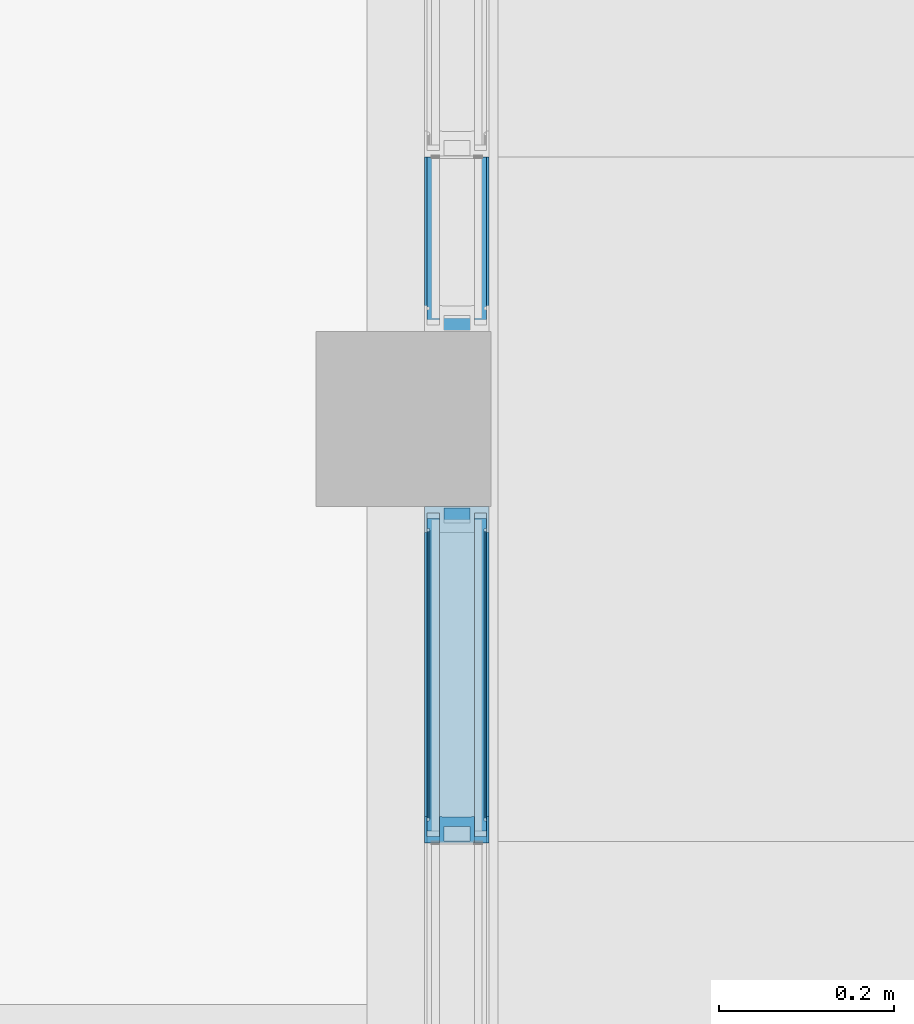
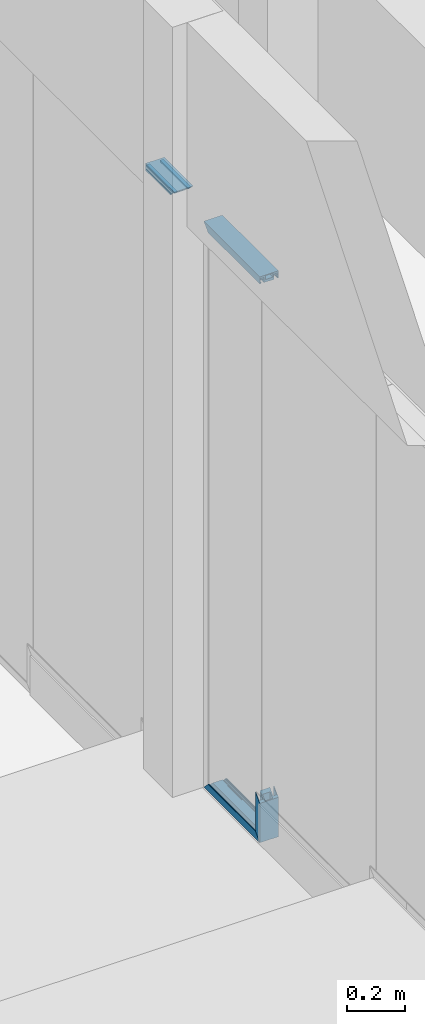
# One storey, part 43 of 65: 7 building element parts, 6 elements without a shape of their own.
"""IFC2X3 building model written with IfcOpenShell, lengths in millimetres."""

from ifc_helpers import new_model, entity, si_unit, converted_unit, derived_unit, money_unit, direction, frame, origin_with_axes, place, context, subcontext, project, spatial, faceted_brep, material, type_object, element, aggregate, save


model = new_model("IFC2X3")

# Units and contexts
model_context = context("Model", 3, precision=0.01, world=origin_with_axes(), true_north=direction((0.0, 1.0)))
body_context = subcontext(model_context, "Body", "Model", "MODEL_VIEW")
ifc_project = project(units=[si_unit("LENGTHUNIT", "METRE", prefix="MILLI"), si_unit("AREAUNIT", "SQUARE_METRE"), si_unit("VOLUMEUNIT", "CUBIC_METRE"), converted_unit("PLANEANGLEUNIT", "DEGREE", entity("IfcPlaneAngleMeasure", 0.0174532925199), si_unit("PLANEANGLEUNIT", "RADIAN"), dimensions=[0, 0, 0, 0, 0, 0, 0]), si_unit("SOLIDANGLEUNIT", "STERADIAN"), money_unit("EUR"), converted_unit("TIMEUNIT", "Year", entity("IfcTimeMeasure", 31556926.0), si_unit("TIMEUNIT", "SECOND"), dimensions=[0, 0, 1, 0, 0, 0, 0]), si_unit("MASSUNIT", "GRAM", prefix="KILO"), si_unit("THERMODYNAMICTEMPERATUREUNIT", "DEGREE_CELSIUS"), si_unit("LUMINOUSINTENSITYUNIT", "LUMEN"), si_unit("ENERGYUNIT", "JOULE", prefix="MEGA"), derived_unit("THERMALCONDUCTANCEUNIT", [(si_unit("POWERUNIT", "WATT"), 1), (si_unit("LENGTHUNIT", "METRE"), -1), (si_unit("THERMODYNAMICTEMPERATUREUNIT", "KELVIN"), -1)]), derived_unit("SPECIFICHEATCAPACITYUNIT", [(si_unit("ENERGYUNIT", "JOULE"), 1), (si_unit("MASSUNIT", "GRAM", prefix="KILO"), -1), (si_unit("THERMODYNAMICTEMPERATUREUNIT", "KELVIN"), -1)]), derived_unit("MASSDENSITYUNIT", [(si_unit("MASSUNIT", "GRAM", prefix="KILO"), 1), (si_unit("VOLUMEUNIT", "CUBIC_METRE"), -1)])], contexts=[model_context])

# Site, building, storey
site_placement = place(None, origin_with_axes())
site = spatial("IfcSite", under=ifc_project, at=site_placement, Name="Puškini 31, Narva", CompositionType="ELEMENT")
building_placement = place(site_placement, origin_with_axes())
building = spatial("IfcBuilding", under=site, at=building_placement, Name="Narva Riigigümnaasium", CompositionType="ELEMENT")
storey_placement = place(building_placement, frame((0.0, 0.0, -1320.0), z_axis=(0.0, 0.0, 1.0), x_axis=(1.0, 0.0, 0.0)))
storey = spatial("IfcBuildingStorey", under=building, at=storey_placement, Name="1.korrus -1.32", CompositionType="ELEMENT", Elevation=-1320.0)

# Curtain wall, members, building element parts
curtain_wall_type = type_object("IfcCurtainWallType", Name="Curtain Wall Type", PredefinedType="NOTDEFINED")
curtain_wall_1_placement = place(storey_placement, frame((30362.9999948, 159591.499992, 330.0), z_axis=(0.0, 0.0, 1.0), x_axis=(1.0, 0.0, 0.0)))
curtain_wall_1 = element("IfcCurtainWall", 1, at=curtain_wall_1_placement, inside=storey, type_object=curtain_wall_type, Name="G-SKLF-03")
member_type_1 = type_object("IfcMemberType", Name="30 x 37", PredefinedType="MULLION")
member_1_placement = place(curtain_wall_1_placement, frame((0.0, 3523.5, 0.0), z_axis=(0.0, 0.0, 1.0), x_axis=(0.0, -1.0, 0.0)))
member_1 = element("IfcMember", 2, at=member_1_placement, type_object=member_type_1, Name="G-SKLF-05-raam", ObjectType="MULLION")
ifc_material_1 = material(Name="Teras RAL7012")
building_element_part_1_placement = place(member_1_placement, origin_with_axes())
building_element_part_1 = element("IfcBuildingElementPart", 3, at=building_element_part_1_placement, material=ifc_material_1, Name="Teras RAL7012", context=body_context, shape_type="Brep", body=[
    faceted_brep([(-29.6000001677, -17.0000000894, 29.6000001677), (-29.6000001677, -17.0000000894, 194.600007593), (-29.6000001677, 17.0000000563, 194.600007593), (-29.6000001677, 17.0000000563, 29.6000001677), (3.28335792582e-07, -17.0000000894, -3.28335789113e-07), (3.28335792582e-07, -17.0000000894, 165.000007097), (3.28335792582e-07, 17.0000000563, 165.000007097), (-1.99999958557, -15.0000001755, 167.000007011), (-18.8000001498, -15.0000001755, 183.800007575), (-18.8000001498, 15.0000001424, 183.800007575), (-1.99999958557, 15.0000001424, 167.000007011), (3.28335792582e-07, 17.0000000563, -3.28335796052e-07), (-1.99999958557, -15.0000001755, 1.99999958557), (-1.99999958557, 15.0000001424, 1.99999958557), (-18.8000001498, 15.0000001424, 18.8000001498), (-18.8000001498, -15.0000001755, 18.8000001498)], [[[0, 1, 2, 3]], [[4, 5, 1, 0]], [[2, 1, 5, 6], [7, 8, 9, 10]], [[3, 2, 6, 11]], [[3, 11, 4, 0], [12, 13, 14, 15]], [[11, 6, 5, 4]], [[15, 8, 7, 12]], [[14, 9, 8, 15]], [[13, 10, 9, 14]], [[12, 7, 10, 13]]]),
    faceted_brep([(-29.6000001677, 17.0000000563, 29.6000001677), (-29.6000001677, 17.0000000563, 194.600007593), (-30.0000193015, 17.0, 195.000026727), (-30.0000193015, 17.0, 30.0000193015), (0.0, 17.0, 0.0), (0.0, 17.0, 165.000007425), (-30.0000193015, 20.0, 195.000026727), (0.0, 37.0, 165.000007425), (-30.0000193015, 37.0, 195.000026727), (-30.0000193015, 34.0161444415, 195.000026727), (-28.5126239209, 34.0161444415, 193.512631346), (-24.987414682, 34.0161444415, 189.987422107), (-13.8499999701, 34.0161444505, 178.850007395), (-7.49999999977, 34.0161444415, 172.500007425), (-7.49999999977, 20.0, 172.500007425), (-13.8499999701, 20.000000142, 178.850007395), (-30.0000193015, 20.0, 30.0000193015), (-13.8499999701, 20.000000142, 13.8499999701), (-7.49999999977, 20.0, 7.49999999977), (-7.49999999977, 34.0161444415, 7.49999999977), (-13.8499999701, 34.0161444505, 13.8499999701), (-24.987414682, 34.0161444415, 24.987414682), (-28.5126239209, 34.0161444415, 28.5126239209), (-30.0000193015, 34.0161444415, 30.0000193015), (-30.0000193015, 37.0, 30.0000193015), (0.0, 37.0, 0.0)], [[[0, 1, 2, 3]], [[1, 0, 4, 5]], [[6, 2, 1, 5, 7, 8, 9, 10, 11, 12, 13, 14, 15]], [[3, 2, 6, 16]], [[3, 16, 17, 18, 19, 20, 21, 22, 23, 24, 25, 4, 0]], [[5, 4, 25, 7]], [[24, 8, 7, 25]], [[23, 9, 8, 24]], [[9, 23, 22, 10]], [[21, 11, 10, 22]], [[20, 12, 11, 21]], [[12, 20, 19, 13]], [[18, 14, 13, 19]], [[14, 18, 17, 15]], [[16, 6, 15, 17]]]),
    faceted_brep([(-30.0000193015, -34.0161444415, 30.0000193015), (-30.0000193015, -34.0161444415, 195.000026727), (-28.5126239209, -34.0161444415, 193.512631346), (-28.5126239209, -34.0161444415, 28.5126239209), (-30.0000193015, -37.0, 30.0000193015), (-30.0000193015, -37.0, 195.000026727), (0.0, -37.0, 165.000007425), (0.0, -17.0, 165.000007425), (-29.6000001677, -17.0000000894, 194.600007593), (-30.0000193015, -17.0, 195.000026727), (-30.0000193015, -20.0, 195.000026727), (-13.8499999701, -19.9999997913, 178.850007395), (-7.49999999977, -20.0, 172.500007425), (-7.49999999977, -34.0161444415, 172.500007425), (-13.8499999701, -34.0161445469, 178.850007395), (-24.987414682, -34.0161444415, 189.987422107), (-24.987414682, -34.0161444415, 24.987414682), (-13.8499999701, -34.0161445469, 13.8499999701), (-7.49999999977, -34.0161444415, 7.49999999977), (-7.49999999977, -20.0, 7.49999999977), (-13.8499999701, -19.9999997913, 13.8499999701), (-30.0000193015, -20.0, 30.0000193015), (-30.0000193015, -17.0, 30.0000193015), (-29.6000001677, -17.0000000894, 29.6000001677), (0.0, -17.0, 0.0), (0.0, -37.0, 0.0)], [[[0, 1, 2, 3]], [[4, 5, 1, 0]], [[1, 5, 6, 7, 8, 9, 10, 11, 12, 13, 14, 15, 2]], [[15, 16, 3, 2]], [[4, 0, 3, 16, 17, 18, 19, 20, 21, 22, 23, 24, 25]], [[5, 4, 25, 6]], [[6, 25, 24, 7]], [[23, 8, 7, 24]], [[8, 23, 22, 9]], [[21, 10, 9, 22]], [[10, 21, 20, 11]], [[19, 12, 11, 20]], [[18, 13, 12, 19]], [[13, 18, 17, 14]], [[14, 17, 16, 15]]]),
])
aggregate(member_1, [building_element_part_1])
member_2_placement = place(curtain_wall_1_placement, frame((0.0, 3523.5, 0.0), z_axis=(0.0, 1.0, 0.0), x_axis=(0.0, 0.0, 1.0)))
member_2 = element("IfcMember", 4, at=member_2_placement, type_object=member_type_1, Name="G-SKLF-23-raam", ObjectType="MULLION")
ifc_material_2 = material(Name="Klaasvill")
building_element_part_2_placement = place(member_2_placement, origin_with_axes())
building_element_part_2 = element("IfcBuildingElementPart", 5, at=building_element_part_2_placement, material=ifc_material_2, Name="Klaasvill", context=body_context, shape_type="Brep", body=[
    faceted_brep([(13.8499999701, 20.000000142, 13.8499999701), (13.8499999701, 20.000000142, 371.149965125), (7.49999990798, 20.000000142, 377.499964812), (7.49999990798, 20.000000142, 7.49999990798), (13.8499999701, 34.0161444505, 13.8499999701), (13.8499999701, 34.0161444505, 371.149965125), (7.49999990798, 34.0161444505, 377.499964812), (7.49999990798, 34.0161444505, 7.49999990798)], [[[0, 1, 2, 3]], [[4, 5, 1, 0]], [[2, 1, 5, 6]], [[3, 2, 6, 7]], [[3, 7, 4, 0]], [[7, 6, 5, 4]]]),
    faceted_brep([(25.004489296, 32.0307503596, 25.004489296), (25.004489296, 32.0307503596, 359.995476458), (24.987414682, 34.0161444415, 360.012551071), (24.987414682, 34.0161444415, 24.987414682), (25.742237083, 31.2930025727, 25.742237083), (25.742237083, 31.2930025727, 359.257728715), (26.7500193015, 31.0229681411, 358.249946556), (27.75780152, 31.2930025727, 357.242164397), (28.4955493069, 32.0307503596, 356.504416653), (28.7655837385, 33.0385325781, 356.234382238), (28.5126239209, 34.0161444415, 356.48734204), (28.5126239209, 34.0161444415, 28.5126239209), (28.7655837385, 33.0385325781, 28.7655837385), (28.4955493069, 32.0307503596, 28.4955493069), (27.75780152, 31.2930025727, 27.75780152), (26.7500193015, 31.0229681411, 26.7500193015)], [[[0, 1, 2, 3]], [[4, 5, 1, 0]], [[2, 1, 5, 6, 7, 8, 9, 10]], [[3, 2, 10, 11]], [[3, 11, 12, 13, 14, 15, 4, 0]], [[15, 6, 5, 4]], [[14, 7, 6, 15]], [[13, 8, 7, 14]], [[12, 9, 8, 13]], [[11, 10, 9, 12]]]),
    faceted_brep([(7.49999990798, -34.0161445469, 7.49999990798), (7.49999990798, -34.0161445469, 377.499964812), (7.49999990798, -19.9999997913, 377.499964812), (7.49999990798, -19.9999997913, 7.49999990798), (13.8499999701, -34.0161445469, 13.8499999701), (13.8499999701, -34.0161445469, 371.149965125), (13.8499999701, -19.9999997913, 371.149965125), (13.8499999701, -19.9999997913, 13.8499999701)], [[[0, 1, 2, 3]], [[4, 5, 1, 0]], [[2, 1, 5, 6]], [[3, 2, 6, 7]], [[3, 7, 4, 0]], [[7, 6, 5, 4]]]),
    faceted_brep([(24.987414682, -34.0161444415, 24.987414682), (24.987414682, -34.0161444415, 360.012551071), (25.004489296, -32.0307503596, 359.995476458), (25.004489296, -32.0307503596, 25.004489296), (28.5126239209, -34.0161444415, 28.5126239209), (28.5126239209, -34.0161444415, 356.48734204), (28.7655837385, -33.0385325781, 356.234382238), (28.4955493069, -32.0307503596, 356.504416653), (27.75780152, -31.2930025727, 357.242164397), (26.7500193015, -31.0229681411, 358.249946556), (25.742237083, -31.2930025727, 359.257728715), (25.742237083, -31.2930025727, 25.742237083), (26.7500193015, -31.0229681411, 26.7500193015), (27.75780152, -31.2930025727, 27.75780152), (28.4955493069, -32.0307503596, 28.4955493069), (28.7655837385, -33.0385325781, 28.7655837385)], [[[0, 1, 2, 3]], [[4, 5, 1, 0]], [[2, 1, 5, 6, 7, 8, 9, 10]], [[3, 2, 10, 11]], [[3, 11, 12, 13, 14, 15, 4, 0]], [[15, 6, 5, 4]], [[14, 7, 6, 15]], [[13, 8, 7, 14]], [[12, 9, 8, 13]], [[11, 10, 9, 12]]]),
])
building_element_part_3_placement = place(member_2_placement, origin_with_axes())
building_element_part_3 = element("IfcBuildingElementPart", 6, at=building_element_part_3_placement, material=ifc_material_1, Name="Teras RAL7012", context=body_context, shape_type="Brep", body=[
    faceted_brep([(29.5999996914, -17.0000000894, 29.5999996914), (29.5999996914, -17.0000000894, 355.399966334), (0.0, -17.0000000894, 384.999964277), (0.0, -17.0000000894, 0.0), (29.5999996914, 17.0000000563, 29.5999996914), (29.5999996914, 17.0000000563, 355.399966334), (0.0, 17.0000000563, 384.999964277), (1.9999999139, 15.0000001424, 382.999964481), (18.7999996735, 15.0000001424, 366.199965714), (18.7999996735, -15.0000001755, 366.199965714), (1.9999999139, -15.0000001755, 382.999964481), (0.0, 17.0000000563, 0.0), (1.9999999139, 15.0000001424, 1.9999999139), (1.9999999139, -15.0000001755, 1.9999999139), (18.7999996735, -15.0000001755, 18.7999996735), (18.7999996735, 15.0000001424, 18.7999996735)], [[[0, 1, 2, 3]], [[4, 5, 1, 0]], [[2, 1, 5, 6], [7, 8, 9, 10]], [[3, 2, 6, 11]], [[3, 11, 4, 0], [12, 13, 14, 15]], [[11, 6, 5, 4]], [[15, 8, 7, 12]], [[14, 9, 8, 15]], [[13, 10, 9, 14]], [[12, 7, 10, 13]]]),
    faceted_brep([(29.5999996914, 17.0000000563, 29.5999996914), (29.5999996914, 17.0000000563, 355.399966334), (0.0, 17.0, 384.999964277), (0.0, 17.0, 0.0), (30.0000193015, 17.0, 30.0000193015), (30.0000193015, 17.0, 354.999946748), (30.0000193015, 20.0, 354.999946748), (13.8499999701, 20.000000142, 371.149965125), (7.49999999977, 20.0, 377.49996472), (7.49999999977, 34.0161444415, 377.49996472), (13.8499999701, 34.0161444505, 371.149965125), (24.987414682, 34.0161444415, 360.012551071), (28.5126239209, 34.0161444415, 356.48734204), (30.0000193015, 34.0161444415, 354.999946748), (30.0000193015, 37.0, 354.999946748), (0.0, 37.0, 384.999964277), (0.0, 37.0, 0.0), (30.0000193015, 37.0, 30.0000193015), (30.0000193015, 34.0161444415, 30.0000193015), (28.5126239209, 34.0161444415, 28.5126239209), (24.987414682, 34.0161444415, 24.987414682), (13.8499999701, 34.0161444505, 13.8499999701), (7.49999999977, 34.0161444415, 7.49999999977), (7.49999999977, 20.0, 7.49999999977), (13.8499999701, 20.000000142, 13.8499999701), (30.0000193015, 20.0, 30.0000193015)], [[[0, 1, 2, 3]], [[4, 5, 1, 0]], [[2, 1, 5, 6, 7, 8, 9, 10, 11, 12, 13, 14, 15]], [[3, 2, 15, 16]], [[3, 16, 17, 18, 19, 20, 21, 22, 23, 24, 25, 4, 0]], [[25, 6, 5, 4]], [[24, 7, 6, 25]], [[23, 8, 7, 24]], [[22, 9, 8, 23]], [[21, 10, 9, 22]], [[20, 11, 10, 21]], [[19, 12, 11, 20]], [[18, 13, 12, 19]], [[17, 14, 13, 18]], [[16, 15, 14, 17]]]),
    faceted_brep([(0.0, -37.0, 0.0), (0.0, -37.0, 384.999964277), (0.0, -17.0, 384.999964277), (0.0, -17.0, 0.0), (30.0000193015, -37.0, 30.0000193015), (30.0000193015, -37.0, 354.999946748), (30.0000193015, -34.0161444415, 354.999946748), (28.5126239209, -34.0161444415, 356.48734204), (24.987414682, -34.0161444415, 360.012551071), (13.8499999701, -34.0161445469, 371.149965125), (7.49999999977, -34.0161444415, 377.49996472), (7.49999999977, -20.0, 377.49996472), (13.8499999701, -19.9999997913, 371.149965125), (30.0000193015, -20.0, 354.999946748), (30.0000193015, -17.0, 354.999946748), (29.5999996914, -17.0000000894, 355.399966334), (29.5999996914, -17.0000000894, 29.5999996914), (30.0000193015, -17.0, 30.0000193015), (30.0000193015, -20.0, 30.0000193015), (13.8499999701, -19.9999997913, 13.8499999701), (7.49999999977, -20.0, 7.49999999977), (7.49999999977, -34.0161444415, 7.49999999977), (13.8499999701, -34.0161445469, 13.8499999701), (24.987414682, -34.0161444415, 24.987414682), (28.5126239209, -34.0161444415, 28.5126239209), (30.0000193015, -34.0161444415, 30.0000193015)], [[[0, 1, 2, 3]], [[4, 5, 1, 0]], [[2, 1, 5, 6, 7, 8, 9, 10, 11, 12, 13, 14, 15]], [[3, 2, 15, 16]], [[3, 16, 17, 18, 19, 20, 21, 22, 23, 24, 25, 4, 0]], [[25, 6, 5, 4]], [[24, 7, 6, 25]], [[23, 8, 7, 24]], [[22, 9, 8, 23]], [[21, 10, 9, 22]], [[20, 11, 10, 21]], [[19, 12, 11, 20]], [[18, 13, 12, 19]], [[17, 14, 13, 18]], [[16, 15, 14, 17]]]),
])
aggregate(member_2, [building_element_part_2, building_element_part_3])
member_3_placement = place(curtain_wall_1_placement, frame((0.0, 3908.50010429, 2369.99992285), z_axis=(0.0, -1.0, 1.04224375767e-08), x_axis=(0.0, -1.04224375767e-08, -1.0)))
member_3 = element("IfcMember", 7, at=member_3_placement, type_object=member_type_1, Name="G-SKLF-25-raam", ObjectType="MULLION")
aggregate(curtain_wall_1, [member_1, member_2, member_3])
building_element_part_4_placement = place(member_3_placement, origin_with_axes())
building_element_part_4 = element("IfcBuildingElementPart", 8, at=building_element_part_4_placement, material=ifc_material_2, Name="Klaasvill", context=body_context, shape_type="Brep", body=[
    faceted_brep([(13.8499999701, 20.000000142, 13.850000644), (13.8499999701, 20.000000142, 385.000104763), (7.49999990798, 20.000000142, 385.000104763), (7.49999990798, 20.000000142, 7.50000027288), (13.8499999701, 34.0161444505, 13.850000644), (13.8499999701, 34.0161444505, 385.000104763), (7.49999990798, 34.0161444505, 385.000104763), (7.49999990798, 34.0161444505, 7.50000027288)], [[[0, 1, 2, 3]], [[4, 5, 1, 0]], [[2, 1, 5, 6]], [[3, 2, 6, 7]], [[3, 7, 4, 0]], [[7, 6, 5, 4]]]),
    faceted_brep([(25.004489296, 32.0307503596, 25.0044905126), (25.004489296, 32.0307503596, 385.000104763), (24.987414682, 34.0161444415, 385.000104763), (24.987414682, 34.0161444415, 24.9874158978), (25.742237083, 31.2930025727, 25.7422383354), (25.742237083, 31.2930025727, 385.000104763), (26.7500193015, 31.0229681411, 385.000104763), (27.75780152, 31.2930025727, 385.000104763), (28.4955493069, 32.0307503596, 385.000104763), (28.7655837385, 33.0385325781, 385.000104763), (28.5126239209, 34.0161444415, 385.000104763), (28.5126239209, 34.0161444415, 28.5126253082), (28.7655837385, 33.0385325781, 28.7655851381), (28.4955493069, 32.0307503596, 28.4955506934), (27.75780152, 31.2930025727, 27.7578028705), (26.7500193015, 31.0229681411, 26.750020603)], [[[0, 1, 2, 3]], [[4, 5, 1, 0]], [[2, 1, 5, 6, 7, 8, 9, 10]], [[3, 2, 10, 11]], [[3, 11, 12, 13, 14, 15, 4, 0]], [[15, 6, 5, 4]], [[14, 7, 6, 15]], [[13, 8, 7, 14]], [[12, 9, 8, 13]], [[11, 10, 9, 12]]]),
    faceted_brep([(7.49999990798, -34.0161445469, 7.50000027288), (7.49999990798, -34.0161445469, 385.000104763), (7.49999990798, -19.9999997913, 385.000104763), (7.49999990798, -19.9999997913, 7.50000027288), (13.8499999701, -34.0161445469, 13.850000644), (13.8499999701, -34.0161445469, 385.000104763), (13.8499999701, -19.9999997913, 385.000104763), (13.8499999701, -19.9999997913, 13.850000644)], [[[0, 1, 2, 3]], [[4, 5, 1, 0]], [[2, 1, 5, 6]], [[3, 2, 6, 7]], [[3, 7, 4, 0]], [[7, 6, 5, 4]]]),
    faceted_brep([(24.987414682, -34.0161444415, 24.9874158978), (24.987414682, -34.0161444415, 385.000104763), (25.004489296, -32.0307503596, 385.000104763), (25.004489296, -32.0307503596, 25.0044905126), (28.5126239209, -34.0161444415, 28.5126253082), (28.5126239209, -34.0161444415, 385.000104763), (28.7655837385, -33.0385325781, 385.000104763), (28.4955493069, -32.0307503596, 385.000104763), (27.75780152, -31.2930025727, 385.000104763), (26.7500193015, -31.0229681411, 385.000104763), (25.742237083, -31.2930025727, 385.000104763), (25.742237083, -31.2930025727, 25.7422383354), (26.7500193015, -31.0229681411, 26.750020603), (27.75780152, -31.2930025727, 27.7578028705), (28.4955493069, -32.0307503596, 28.4955506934), (28.7655837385, -33.0385325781, 28.7655851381)], [[[0, 1, 2, 3]], [[4, 5, 1, 0]], [[2, 1, 5, 6, 7, 8, 9, 10]], [[3, 2, 10, 11]], [[3, 11, 12, 13, 14, 15, 4, 0]], [[15, 6, 5, 4]], [[14, 7, 6, 15]], [[13, 8, 7, 14]], [[12, 9, 8, 13]], [[11, 10, 9, 12]]]),
])
building_element_part_5_placement = place(member_3_placement, origin_with_axes())
building_element_part_5 = element("IfcBuildingElementPart", 9, at=building_element_part_5_placement, material=ifc_material_1, Name="Teras RAL7012", context=body_context, shape_type="Brep", body=[
    faceted_brep([(29.5999996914, -17.0000000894, 29.6000011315), (29.5999996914, -17.0000000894, 385.000104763), (0.0, -17.0000000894, 385.000104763), (0.0, -17.0000000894, 0.0), (29.5999996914, 17.0000000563, 29.6000011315), (29.5999996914, 17.0000000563, 385.000104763), (0.0, 17.0000000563, 385.000104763), (1.9999999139, 15.0000001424, 385.000104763), (18.7999996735, 15.0000001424, 385.000104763), (18.7999996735, -15.0000001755, 385.000104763), (1.9999999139, -15.0000001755, 385.000104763), (0.0, 17.0000000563, 0.0), (1.9999999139, 15.0000001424, 2.00000001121), (1.9999999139, -15.0000001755, 2.00000001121), (18.7999996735, -15.0000001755, 18.8000005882), (18.7999996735, 15.0000001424, 18.8000005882)], [[[0, 1, 2, 3]], [[4, 5, 1, 0]], [[2, 1, 5, 6], [7, 8, 9, 10]], [[3, 2, 6, 11]], [[3, 11, 4, 0], [12, 13, 14, 15]], [[11, 6, 5, 4]], [[15, 8, 7, 12]], [[14, 9, 8, 15]], [[13, 10, 9, 14]], [[12, 7, 10, 13]]]),
    faceted_brep([(29.5999996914, 17.0000000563, 29.6000011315), (29.5999996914, 17.0000000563, 385.000104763), (0.0, 17.0, 385.000104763), (0.0, 17.0, 0.0), (30.0000193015, 17.0, 30.0000207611), (30.0000193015, 17.0, 385.000104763), (30.0000193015, 20.0, 385.000104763), (13.8499999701, 20.000000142, 385.000104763), (7.49999999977, 20.0, 385.000104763), (7.49999999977, 34.0161444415, 385.000104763), (13.8499999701, 34.0161444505, 385.000104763), (24.987414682, 34.0161444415, 385.000104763), (28.5126239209, 34.0161444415, 385.000104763), (30.0000193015, 34.0161444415, 385.000104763), (30.0000193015, 37.0, 385.000104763), (0.0, 37.0, 385.000104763), (0.0, 37.0, 0.0), (30.0000193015, 37.0, 30.0000207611), (30.0000193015, 34.0161444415, 30.0000207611), (28.5126239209, 34.0161444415, 28.5126253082), (24.987414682, 34.0161444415, 24.9874158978), (13.8499999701, 34.0161444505, 13.850000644), (7.49999999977, 34.0161444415, 7.50000036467), (7.49999999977, 20.0, 7.50000036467), (13.8499999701, 20.000000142, 13.850000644), (30.0000193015, 20.0, 30.0000207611)], [[[0, 1, 2, 3]], [[4, 5, 1, 0]], [[2, 1, 5, 6, 7, 8, 9, 10, 11, 12, 13, 14, 15]], [[3, 2, 15, 16]], [[3, 16, 17, 18, 19, 20, 21, 22, 23, 24, 25, 4, 0]], [[25, 6, 5, 4]], [[24, 7, 6, 25]], [[23, 8, 7, 24]], [[22, 9, 8, 23]], [[21, 10, 9, 22]], [[20, 11, 10, 21]], [[19, 12, 11, 20]], [[18, 13, 12, 19]], [[17, 14, 13, 18]], [[16, 15, 14, 17]]]),
    faceted_brep([(0.0, -37.0, 0.0), (0.0, -37.0, 385.000104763), (0.0, -17.0, 385.000104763), (0.0, -17.0, 0.0), (30.0000193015, -37.0, 30.0000207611), (30.0000193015, -37.0, 385.000104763), (30.0000193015, -34.0161444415, 385.000104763), (28.5126239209, -34.0161444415, 385.000104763), (24.987414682, -34.0161444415, 385.000104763), (13.8499999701, -34.0161445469, 385.000104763), (7.49999999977, -34.0161444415, 385.000104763), (7.49999999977, -20.0, 385.000104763), (13.8499999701, -19.9999997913, 385.000104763), (30.0000193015, -20.0, 385.000104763), (30.0000193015, -17.0, 385.000104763), (29.5999996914, -17.0000000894, 385.000104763), (29.5999996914, -17.0000000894, 29.6000011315), (30.0000193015, -17.0, 30.0000207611), (30.0000193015, -20.0, 30.0000207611), (13.8499999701, -19.9999997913, 13.850000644), (7.49999999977, -20.0, 7.50000036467), (7.49999999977, -34.0161444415, 7.50000036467), (13.8499999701, -34.0161445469, 13.850000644), (24.987414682, -34.0161444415, 24.9874158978), (28.5126239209, -34.0161444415, 28.5126253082), (30.0000193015, -34.0161444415, 30.0000207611)], [[[0, 1, 2, 3]], [[4, 5, 1, 0]], [[2, 1, 5, 6, 7, 8, 9, 10, 11, 12, 13, 14, 15]], [[3, 2, 15, 16]], [[3, 16, 17, 18, 19, 20, 21, 22, 23, 24, 25, 4, 0]], [[25, 6, 5, 4]], [[24, 7, 6, 25]], [[23, 8, 7, 24]], [[22, 9, 8, 23]], [[21, 10, 9, 22]], [[20, 11, 10, 21]], [[19, 12, 11, 20]], [[18, 13, 12, 19]], [[17, 14, 13, 18]], [[16, 15, 14, 17]]]),
])
aggregate(member_3, [building_element_part_4, building_element_part_5])

# Curtain wall, member, building element parts
curtain_wall_2_placement = place(storey_placement, frame((30362.9999988, 164066.428557, -5.96047033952e-06), z_axis=(0.0, 0.0, 1.0), x_axis=(1.0, 0.0, 0.0)))
curtain_wall_2 = element("IfcCurtainWall", 10, at=curtain_wall_2_placement, inside=storey, type_object=curtain_wall_type, Name="G-SKLF-04")
member_type_2 = type_object("IfcMemberType", Name="Boundary Frame 30 x 37", PredefinedType="MULLION")
member_4_placement = place(curtain_wall_2_placement, frame((0.0, -366.428604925, 2700.000022), z_axis=(0.0, 1.0, 0.0), x_axis=(0.0, 0.0, 1.0)))
member_4 = element("IfcMember", 11, at=member_4_placement, type_object=member_type_2, Name="G-SKLF-31-raam", ObjectType="MULLION")
aggregate(curtain_wall_2, [member_4])
building_element_part_6_placement = place(member_4_placement, origin_with_axes())
building_element_part_6 = element("IfcBuildingElementPart", 12, at=building_element_part_6_placement, material=ifc_material_2, Name="Klaasvill", context=body_context, shape_type="Brep", body=[
    faceted_brep([(-13.8499999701, 20.000000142, 13.8499999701), (-7.49999990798, 20.000000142, 7.49999990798), (-7.49999990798, 20.000000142, 199.800046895), (-13.8499999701, 20.000000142, 199.800046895), (-13.8499999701, 34.0161444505, 13.8499999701), (-7.49999990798, 34.0161444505, 7.49999990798), (-7.49999990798, 34.0161444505, 199.800046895), (-13.8499999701, 34.0161444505, 199.800046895)], [[[0, 1, 2, 3]], [[1, 0, 4, 5]], [[1, 5, 6, 2]], [[2, 6, 7, 3]], [[4, 0, 3, 7]], [[5, 4, 7, 6]]]),
    faceted_brep([(-25.004489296, 32.0307503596, 25.004489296), (-24.987414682, 34.0161444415, 24.987414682), (-24.987414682, 34.0161444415, 199.800046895), (-25.004489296, 32.0307503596, 199.800046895), (-25.742237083, 31.2930025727, 25.742237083), (-26.7500193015, 31.0229681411, 26.7500193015), (-27.75780152, 31.2930025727, 27.75780152), (-28.4955493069, 32.0307503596, 28.4955493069), (-28.7655837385, 33.0385325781, 28.7655837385), (-28.5126239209, 34.0161444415, 28.5126239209), (-28.5126239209, 34.0161444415, 199.800046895), (-28.7655837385, 33.0385325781, 199.800046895), (-28.4955493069, 32.0307503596, 199.800046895), (-27.75780152, 31.2930025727, 199.800046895), (-26.7500193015, 31.0229681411, 199.800046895), (-25.742237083, 31.2930025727, 199.800046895)], [[[0, 1, 2, 3]], [[1, 0, 4, 5, 6, 7, 8, 9]], [[1, 9, 10, 2]], [[2, 10, 11, 12, 13, 14, 15, 3]], [[4, 0, 3, 15]], [[5, 4, 15, 14]], [[6, 5, 14, 13]], [[7, 6, 13, 12]], [[8, 7, 12, 11]], [[9, 8, 11, 10]]]),
    faceted_brep([(-7.49999990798, -34.0161445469, 7.49999990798), (-7.49999990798, -19.9999997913, 7.49999990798), (-7.49999990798, -19.9999997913, 199.800046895), (-7.49999990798, -34.0161445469, 199.800046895), (-13.8499999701, -34.0161445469, 13.8499999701), (-13.8499999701, -19.9999997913, 13.8499999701), (-13.8499999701, -19.9999997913, 199.800046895), (-13.8499999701, -34.0161445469, 199.800046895)], [[[0, 1, 2, 3]], [[1, 0, 4, 5]], [[1, 5, 6, 2]], [[2, 6, 7, 3]], [[4, 0, 3, 7]], [[5, 4, 7, 6]]]),
    faceted_brep([(-24.987414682, -34.0161444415, 24.987414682), (-25.004489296, -32.0307503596, 25.004489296), (-25.004489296, -32.0307503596, 199.800046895), (-24.987414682, -34.0161444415, 199.800046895), (-28.5126239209, -34.0161444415, 28.5126239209), (-28.7655837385, -33.0385325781, 28.7655837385), (-28.4955493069, -32.0307503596, 28.4955493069), (-27.75780152, -31.2930025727, 27.75780152), (-26.7500193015, -31.0229681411, 26.7500193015), (-25.742237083, -31.2930025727, 25.742237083), (-25.742237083, -31.2930025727, 199.800046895), (-26.7500193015, -31.0229681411, 199.800046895), (-27.75780152, -31.2930025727, 199.800046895), (-28.4955493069, -32.0307503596, 199.800046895), (-28.7655837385, -33.0385325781, 199.800046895), (-28.5126239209, -34.0161444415, 199.800046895)], [[[0, 1, 2, 3]], [[1, 0, 4, 5, 6, 7, 8, 9]], [[1, 9, 10, 2]], [[2, 10, 11, 12, 13, 14, 15, 3]], [[4, 0, 3, 15]], [[5, 4, 15, 14]], [[6, 5, 14, 13]], [[7, 6, 13, 12]], [[8, 7, 12, 11]], [[9, 8, 11, 10]]]),
])
building_element_part_7_placement = place(member_4_placement, origin_with_axes())
building_element_part_7 = element("IfcBuildingElementPart", 13, at=building_element_part_7_placement, material=ifc_material_1, Name="Teras RAL7012", context=body_context, shape_type="Brep", body=[
    faceted_brep([(-29.5999996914, -17.0000000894, 29.5999996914), (0.0, -17.0000000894, 0.0), (0.0, -17.0000000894, 199.800046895), (-29.5999996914, -17.0000000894, 199.800046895), (-29.5999996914, 17.0000000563, 29.5999996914), (0.0, 17.0000000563, 0.0), (-1.9999999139, 15.0000001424, 1.9999999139), (-18.7999996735, 15.0000001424, 18.7999996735), (-18.7999996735, -15.0000001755, 18.7999996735), (-1.9999999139, -15.0000001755, 1.9999999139), (0.0, 17.0000000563, 199.800046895), (-29.5999996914, 17.0000000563, 199.800046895), (-1.9999999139, 15.0000001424, 199.800046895), (-1.9999999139, -15.0000001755, 199.800046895), (-18.7999996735, -15.0000001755, 199.800046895), (-18.7999996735, 15.0000001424, 199.800046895)], [[[0, 1, 2, 3]], [[1, 0, 4, 5], [6, 7, 8, 9]], [[1, 5, 10, 2]], [[2, 10, 11, 3], [12, 13, 14, 15]], [[4, 0, 3, 11]], [[5, 4, 11, 10]], [[7, 6, 12, 15]], [[8, 7, 15, 14]], [[9, 8, 14, 13]], [[6, 9, 13, 12]]]),
    faceted_brep([(-29.5999996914, 17.0000000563, 29.5999996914), (0.0, 17.0, 0.0), (0.0, 17.0, 199.800046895), (-29.5999996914, 17.0000000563, 199.800046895), (-30.0000193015, 17.0, 30.0000193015), (-30.0000193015, 20.0, 30.0000193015), (-13.8499999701, 20.000000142, 13.8499999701), (-7.49999999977, 20.0, 7.49999999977), (-7.49999999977, 34.0161444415, 7.49999999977), (-13.8499999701, 34.0161444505, 13.8499999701), (-24.987414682, 34.0161444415, 24.987414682), (-28.5126239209, 34.0161444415, 28.5126239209), (-30.0000193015, 34.0161444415, 30.0000193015), (-30.0000193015, 37.0, 30.0000193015), (0.0, 37.0, 0.0), (0.0, 37.0, 199.800046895), (-30.0000193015, 37.0, 199.800046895), (-30.0000193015, 34.0161444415, 199.800046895), (-28.5126239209, 34.0161444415, 199.800046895), (-24.987414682, 34.0161444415, 199.800046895), (-13.8499999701, 34.0161444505, 199.800046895), (-7.49999999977, 34.0161444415, 199.800046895), (-7.49999999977, 20.0, 199.800046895), (-13.8499999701, 20.000000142, 199.800046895), (-30.0000193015, 20.0, 199.800046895), (-30.0000193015, 17.0, 199.800046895)], [[[0, 1, 2, 3]], [[1, 0, 4, 5, 6, 7, 8, 9, 10, 11, 12, 13, 14]], [[1, 14, 15, 2]], [[2, 15, 16, 17, 18, 19, 20, 21, 22, 23, 24, 25, 3]], [[4, 0, 3, 25]], [[5, 4, 25, 24]], [[6, 5, 24, 23]], [[7, 6, 23, 22]], [[8, 7, 22, 21]], [[9, 8, 21, 20]], [[10, 9, 20, 19]], [[11, 10, 19, 18]], [[12, 11, 18, 17]], [[13, 12, 17, 16]], [[14, 13, 16, 15]]]),
    faceted_brep([(0.0, -37.0, 0.0), (0.0, -17.0, 0.0), (0.0, -17.0, 199.800046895), (0.0, -37.0, 199.800046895), (-30.0000193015, -37.0, 30.0000193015), (-30.0000193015, -34.0161444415, 30.0000193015), (-28.5126239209, -34.0161444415, 28.5126239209), (-24.987414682, -34.0161444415, 24.987414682), (-13.8499999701, -34.0161445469, 13.8499999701), (-7.49999999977, -34.0161444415, 7.49999999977), (-7.49999999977, -20.0, 7.49999999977), (-13.8499999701, -19.9999997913, 13.8499999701), (-30.0000193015, -20.0, 30.0000193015), (-30.0000193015, -17.0, 30.0000193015), (-29.5999996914, -17.0000000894, 29.5999996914), (-29.5999996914, -17.0000000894, 199.800046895), (-30.0000193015, -17.0, 199.800046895), (-30.0000193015, -20.0, 199.800046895), (-13.8499999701, -19.9999997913, 199.800046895), (-7.49999999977, -20.0, 199.800046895), (-7.49999999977, -34.0161444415, 199.800046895), (-13.8499999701, -34.0161445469, 199.800046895), (-24.987414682, -34.0161444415, 199.800046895), (-28.5126239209, -34.0161444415, 199.800046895), (-30.0000193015, -34.0161444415, 199.800046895), (-30.0000193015, -37.0, 199.800046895)], [[[0, 1, 2, 3]], [[1, 0, 4, 5, 6, 7, 8, 9, 10, 11, 12, 13, 14]], [[1, 14, 15, 2]], [[2, 15, 16, 17, 18, 19, 20, 21, 22, 23, 24, 25, 3]], [[4, 0, 3, 25]], [[5, 4, 25, 24]], [[6, 5, 24, 23]], [[7, 6, 23, 22]], [[8, 7, 22, 21]], [[9, 8, 21, 20]], [[10, 9, 20, 19]], [[11, 10, 19, 18]], [[12, 11, 18, 17]], [[13, 12, 17, 16]], [[14, 13, 16, 15]]]),
])
aggregate(member_4, [building_element_part_6, building_element_part_7])

save(model, "model.ifc")
